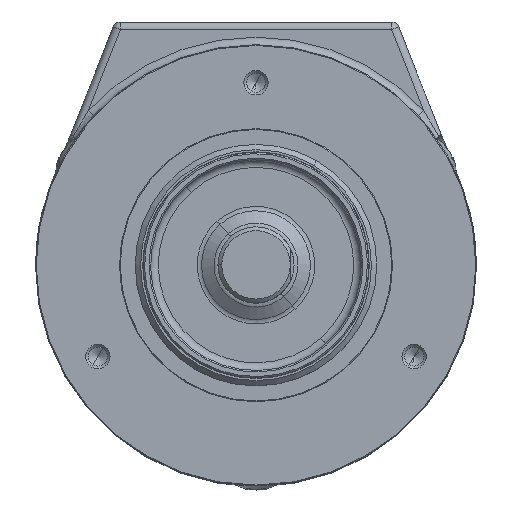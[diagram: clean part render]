
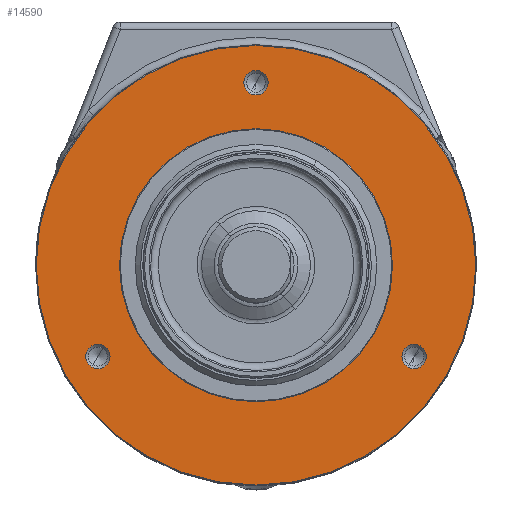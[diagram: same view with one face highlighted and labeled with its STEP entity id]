
A CAD part, top view. The second image highlights one B-rep face of the part: STEP entity #14590.
In plain terms, the highlighted planar face has unit normal (0, 0, 1).
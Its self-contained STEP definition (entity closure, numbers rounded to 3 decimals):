
#242 = CIRCLE ( 'NONE', #19374, 17.7 ) ;
#559 = DIRECTION ( 'NONE',  ( 0., 0., 1. ) ) ;
#565 = EDGE_LOOP ( 'NONE', ( #21949, #31727 ) ) ;
#571 = VERTEX_POINT ( 'NONE', #24876 ) ;
#586 = CARTESIAN_POINT ( 'NONE',  ( 0., 0., 0. ) ) ;
#738 = DIRECTION ( 'NONE',  ( 0.5, 0.866, 0. ) ) ;
#1252 = DIRECTION ( 'NONE',  ( 0., 0., -1. ) ) ;
#1636 = CARTESIAN_POINT ( 'NONE',  ( 19.985, -13.386, 0. ) ) ;
#1780 = EDGE_CURVE ( 'NONE', #27532, #21676, #32120, .T. ) ;
#1913 = CARTESIAN_POINT ( 'NONE',  ( -20.785, -12., 0. ) ) ;
#1973 = DIRECTION ( 'NONE',  ( 0., 0., 1. ) ) ;
#2146 = FACE_BOUND ( 'NONE', #26449, .T. ) ;
#2264 = ORIENTED_EDGE ( 'NONE', *, *, #15846, .F. ) ;
#2712 = VERTEX_POINT ( 'NONE', #24063 ) ;
#3123 = CARTESIAN_POINT ( 'NONE',  ( -25.115, 14.5, 0. ) ) ;
#3346 = CIRCLE ( 'NONE', #6954, 1.6 ) ;
#3829 = EDGE_CURVE ( 'NONE', #19816, #29671, #3972, .T. ) ;
#3901 = VERTEX_POINT ( 'NONE', #28284 ) ;
#3972 = CIRCLE ( 'NONE', #14863, 1.6 ) ;
#3978 = CARTESIAN_POINT ( 'NONE',  ( 0., 0., 0. ) ) ;
#4115 = EDGE_LOOP ( 'NONE', ( #28227, #2264 ) ) ;
#4467 = EDGE_CURVE ( 'NONE', #2712, #23625, #17640, .T. ) ;
#4657 = EDGE_CURVE ( 'NONE', #3901, #8289, #6252, .T. ) ;
#5081 = EDGE_CURVE ( 'NONE', #571, #27251, #25846, .T. ) ;
#5485 = CARTESIAN_POINT ( 'NONE',  ( 0., 24., 0. ) ) ;
#5627 = ORIENTED_EDGE ( 'NONE', *, *, #29124, .T. ) ;
#5702 = AXIS2_PLACEMENT_3D ( 'NONE', #586, #18224, #23111 ) ;
#6237 = DIRECTION ( 'NONE',  ( -0.5, -0.866, 0. ) ) ;
#6252 = CIRCLE ( 'NONE', #19195, 1.6 ) ;
#6593 = DIRECTION ( 'NONE',  ( 0., 0., 1. ) ) ;
#6682 = ORIENTED_EDGE ( 'NONE', *, *, #5081, .T. ) ;
#6954 = AXIS2_PLACEMENT_3D ( 'NONE', #28182, #559, #15744 ) ;
#6994 = CARTESIAN_POINT ( 'NONE',  ( -20.785, -12., 0. ) ) ;
#8114 = AXIS2_PLACEMENT_3D ( 'NONE', #5485, #15237, #25179 ) ;
#8289 = VERTEX_POINT ( 'NONE', #31041 ) ;
#8378 = DIRECTION ( 'NONE',  ( 0.5, 0.866, 0. ) ) ;
#9055 = AXIS2_PLACEMENT_3D ( 'NONE', #1913, #6593, #14045 ) ;
#9232 = FACE_BOUND ( 'NONE', #565, .T. ) ;
#9630 = ORIENTED_EDGE ( 'NONE', *, *, #28260, .F. ) ;
#10749 = AXIS2_PLACEMENT_3D ( 'NONE', #10821, #23503, #26145 ) ;
#10821 = CARTESIAN_POINT ( 'NONE',  ( 0., 0., 0. ) ) ;
#11661 = CARTESIAN_POINT ( 'NONE',  ( 20.785, -12., 0. ) ) ;
#11994 = PLANE ( 'NONE',  #14751 ) ;
#12413 = DIRECTION ( 'NONE',  ( -0.5, -0.866, 0. ) ) ;
#12861 = DIRECTION ( 'NONE',  ( 0., 0., 1. ) ) ;
#14045 = DIRECTION ( 'NONE',  ( 0.5, 0.866, 0. ) ) ;
#14590 = ADVANCED_FACE ( 'NONE', ( #21611, #31600, #9232, #19154, #2146 ), #11994, .F. ) ;
#14751 = AXIS2_PLACEMENT_3D ( 'NONE', #3123, #14776, #22262 ) ;
#14776 = DIRECTION ( 'NONE',  ( 0., 0., -1. ) ) ;
#14863 = AXIS2_PLACEMENT_3D ( 'NONE', #11661, #1973, #8378 ) ;
#15237 = DIRECTION ( 'NONE',  ( 0., 0., 1. ) ) ;
#15490 = CARTESIAN_POINT ( 'NONE',  ( 0., 24., 0. ) ) ;
#15645 = EDGE_LOOP ( 'NONE', ( #5627, #6682 ) ) ;
#15744 = DIRECTION ( 'NONE',  ( 0.5, 0.866, 0. ) ) ;
#15846 = EDGE_CURVE ( 'NONE', #21676, #27532, #20077, .T. ) ;
#15857 = CARTESIAN_POINT ( 'NONE',  ( -0.8, 22.614, 0. ) ) ;
#17063 = DIRECTION ( 'NONE',  ( 0., 0., 1. ) ) ;
#17640 = CIRCLE ( 'NONE', #5702, 17.7 ) ;
#18224 = DIRECTION ( 'NONE',  ( 0., 0., -1. ) ) ;
#18335 = CARTESIAN_POINT ( 'NONE',  ( -14.45, -25.028, 0. ) ) ;
#18923 = CIRCLE ( 'NONE', #9055, 1.6 ) ;
#19154 = FACE_OUTER_BOUND ( 'NONE', #15645, .T. ) ;
#19195 = AXIS2_PLACEMENT_3D ( 'NONE', #6994, #17063, #27047 ) ;
#19374 = AXIS2_PLACEMENT_3D ( 'NONE', #3978, #1252, #6237 ) ;
#19816 = VERTEX_POINT ( 'NONE', #21163 ) ;
#19926 = AXIS2_PLACEMENT_3D ( 'NONE', #32190, #29757, #12413 ) ;
#20077 = CIRCLE ( 'NONE', #8114, 1.6 ) ;
#20685 = ORIENTED_EDGE ( 'NONE', *, *, #3829, .F. ) ;
#21163 = CARTESIAN_POINT ( 'NONE',  ( 21.585, -10.614, 0. ) ) ;
#21283 = ORIENTED_EDGE ( 'NONE', *, *, #4467, .T. ) ;
#21464 = CIRCLE ( 'NONE', #19926, 28.9 ) ;
#21611 = FACE_BOUND ( 'NONE', #4115, .T. ) ;
#21676 = VERTEX_POINT ( 'NONE', #15857 ) ;
#21949 = ORIENTED_EDGE ( 'NONE', *, *, #4657, .F. ) ;
#22262 = DIRECTION ( 'NONE',  ( -0.5, -0.866, 0. ) ) ;
#22332 = EDGE_CURVE ( 'NONE', #8289, #3901, #18923, .T. ) ;
#22397 = CARTESIAN_POINT ( 'NONE',  ( 0.8, 25.386, 0. ) ) ;
#23111 = DIRECTION ( 'NONE',  ( -0.5, -0.866, 0. ) ) ;
#23503 = DIRECTION ( 'NONE',  ( 0., 0., 1. ) ) ;
#23625 = VERTEX_POINT ( 'NONE', #29425 ) ;
#24063 = CARTESIAN_POINT ( 'NONE',  ( 8.85, 15.329, 0. ) ) ;
#24876 = CARTESIAN_POINT ( 'NONE',  ( 14.45, 25.028, 0. ) ) ;
#25164 = EDGE_LOOP ( 'NONE', ( #20685, #9630 ) ) ;
#25179 = DIRECTION ( 'NONE',  ( 0.5, 0.866, 0. ) ) ;
#25846 = CIRCLE ( 'NONE', #10749, 28.9 ) ;
#26145 = DIRECTION ( 'NONE',  ( -0.5, -0.866, 0. ) ) ;
#26449 = EDGE_LOOP ( 'NONE', ( #29971, #21283 ) ) ;
#27047 = DIRECTION ( 'NONE',  ( 0.5, 0.866, 0. ) ) ;
#27251 = VERTEX_POINT ( 'NONE', #18335 ) ;
#27532 = VERTEX_POINT ( 'NONE', #22397 ) ;
#28073 = EDGE_CURVE ( 'NONE', #23625, #2712, #242, .T. ) ;
#28182 = CARTESIAN_POINT ( 'NONE',  ( 20.785, -12., 0. ) ) ;
#28227 = ORIENTED_EDGE ( 'NONE', *, *, #1780, .F. ) ;
#28260 = EDGE_CURVE ( 'NONE', #29671, #19816, #3346, .T. ) ;
#28284 = CARTESIAN_POINT ( 'NONE',  ( -19.985, -10.614, 0. ) ) ;
#28999 = AXIS2_PLACEMENT_3D ( 'NONE', #15490, #12861, #738 ) ;
#29124 = EDGE_CURVE ( 'NONE', #27251, #571, #21464, .T. ) ;
#29425 = CARTESIAN_POINT ( 'NONE',  ( -8.85, -15.329, 0. ) ) ;
#29671 = VERTEX_POINT ( 'NONE', #1636 ) ;
#29757 = DIRECTION ( 'NONE',  ( 0., 0., 1. ) ) ;
#29971 = ORIENTED_EDGE ( 'NONE', *, *, #28073, .T. ) ;
#31041 = CARTESIAN_POINT ( 'NONE',  ( -21.585, -13.386, 0. ) ) ;
#31600 = FACE_BOUND ( 'NONE', #25164, .T. ) ;
#31727 = ORIENTED_EDGE ( 'NONE', *, *, #22332, .F. ) ;
#32120 = CIRCLE ( 'NONE', #28999, 1.6 ) ;
#32190 = CARTESIAN_POINT ( 'NONE',  ( 0., 0., 0. ) ) ;
